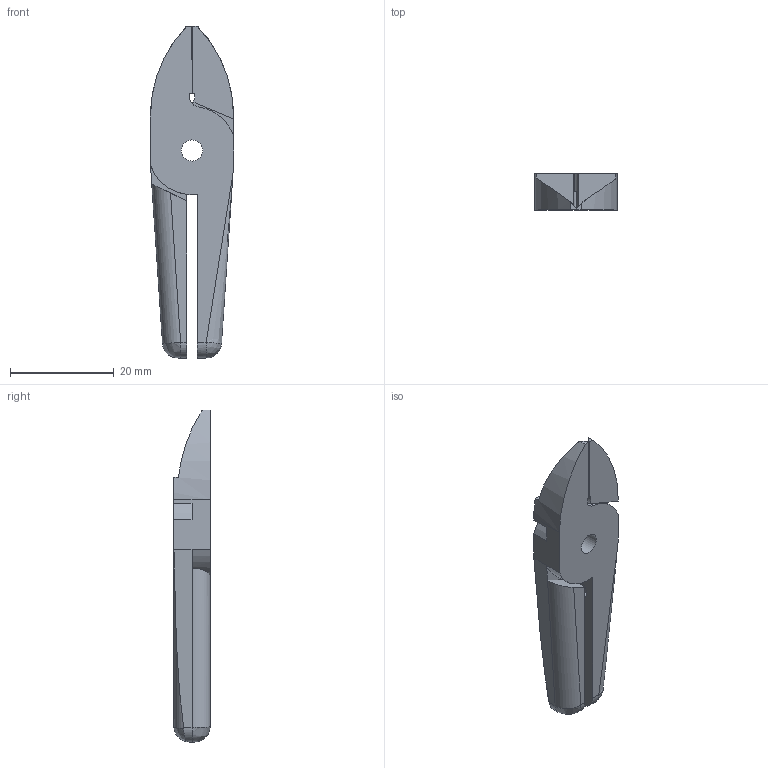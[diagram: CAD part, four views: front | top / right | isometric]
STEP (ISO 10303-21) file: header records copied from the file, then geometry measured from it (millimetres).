
FILE_DESCRIPTION(/* description */ (''),/* implementation_level */ '2;1');
FILE_NAME(/* name */ 'W:\Technik\Konstruktion\CAD-Daten\DJa\Vessel Schneidzangeneinsatz\N5BJ\N5BJ closed.stp',/* time_stamp */ '2016-09-05T14:15:23+02:00',/* author */ ('DJansen'),/* organization */ (''),/* preprocessor_version */ 'ST-DEVELOPER v16.1',/* originating_system */ 'Autodesk Inventor 2016',/* authorisation */ '');
FILE_SCHEMA (('AUTOMOTIVE_DESIGN { 1 0 10303 214 3 1 1 }'));
Length unit declared in the file: centimetre
Products named in the file (1): N5BJ Baugruppe
Bounding box: 16 x 7 x 64 mm (x, y, z)
Volume: 4439.6 mm3; surface area: 3157.8 mm2
Topology: 1 solids, 1 shells, 64 faces, 166 edges, 103 vertices
Faces by surface type: plane 40, cylinder 19, bspline 5
Full cylindrical faces by diameter (mm): 3.8 x2, 4.1 x1
Entity records: 2154 total; most frequent: CARTESIAN_POINT 570, ORIENTED_EDGE 324, DIRECTION 323, EDGE_CURVE 161, AXIS2_PLACEMENT_3D 109, LINE 105, VECTOR 105, VERTEX_POINT 103
